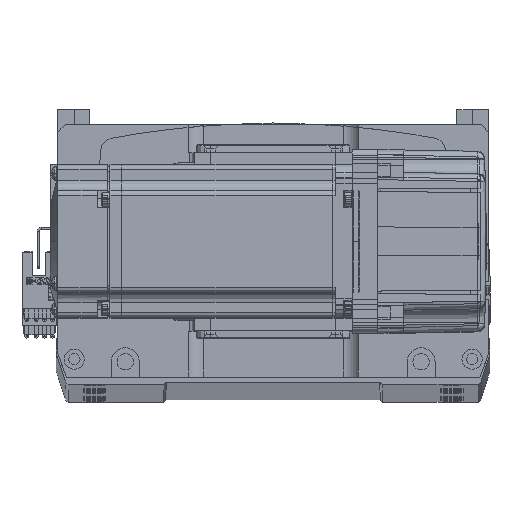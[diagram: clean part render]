
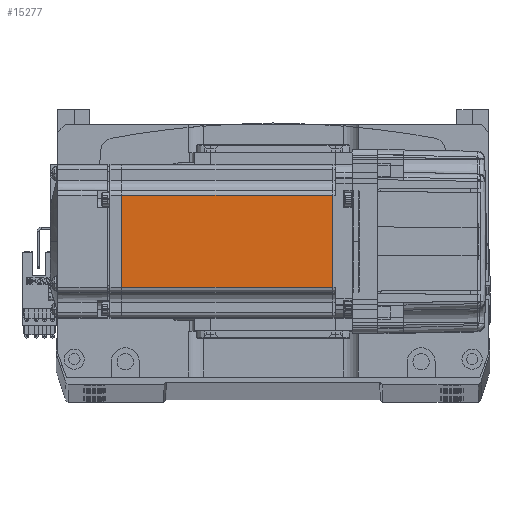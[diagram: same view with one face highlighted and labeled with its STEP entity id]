
A CAD part, top view. The second image highlights one B-rep face of the part: STEP entity #15277.
In plain terms, the highlighted planar face has unit normal (0, 0, 1).
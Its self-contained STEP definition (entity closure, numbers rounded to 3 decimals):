
#1954 = LINE ( 'NONE', #64064, #31824 ) ;
#6425 = CARTESIAN_POINT ( 'NONE',  ( -90.45, 0., 30. ) ) ;
#10285 = DIRECTION ( 'NONE',  ( 0., -1., 0. ) ) ;
#14148 = ORIENTED_EDGE ( 'NONE', *, *, #38905, .F. ) ;
#15277 = ADVANCED_FACE ( 'NONE', ( #44679 ), #48210, .T. ) ;
#19318 = CARTESIAN_POINT ( 'NONE',  ( -7.75, 18., 30. ) ) ;
#22535 = ORIENTED_EDGE ( 'NONE', *, *, #38074, .T. ) ;
#23377 = EDGE_CURVE ( 'NONE', #61444, #41903, #45281, .T. ) ;
#23616 = CARTESIAN_POINT ( 'NONE',  ( -90.45, 18., 30. ) ) ;
#25360 = AXIS2_PLACEMENT_3D ( 'NONE', #36112, #25728, #47720 ) ;
#25728 = DIRECTION ( 'NONE',  ( 0., 0., 1. ) ) ;
#28246 = CARTESIAN_POINT ( 'NONE',  ( -90.45, -18., 30. ) ) ;
#29912 = VECTOR ( 'NONE', #32023, 1000. ) ;
#31824 = VECTOR ( 'NONE', #47177, 1000. ) ;
#32023 = DIRECTION ( 'NONE',  ( -1., 0., 0. ) ) ;
#33588 = CARTESIAN_POINT ( 'NONE',  ( -7.75, 0., 30. ) ) ;
#34198 = LINE ( 'NONE', #6425, #56740 ) ;
#36112 = CARTESIAN_POINT ( 'NONE',  ( -6.5, -25., 30. ) ) ;
#38074 = EDGE_CURVE ( 'NONE', #41903, #62533, #34198, .T. ) ;
#38905 = EDGE_CURVE ( 'NONE', #61444, #46221, #45940, .T. ) ;
#40486 = CARTESIAN_POINT ( 'NONE',  ( -7.75, -18., 30. ) ) ;
#41112 = ORIENTED_EDGE ( 'NONE', *, *, #23377, .T. ) ;
#41903 = VERTEX_POINT ( 'NONE', #23616 ) ;
#43620 = CARTESIAN_POINT ( 'NONE',  ( -6.5, 18., 30. ) ) ;
#44302 = EDGE_CURVE ( 'NONE', #46221, #62533, #1954, .T. ) ;
#44679 = FACE_OUTER_BOUND ( 'NONE', #56349, .T. ) ;
#45281 = LINE ( 'NONE', #43620, #29912 ) ;
#45940 = LINE ( 'NONE', #33588, #63934 ) ;
#46221 = VERTEX_POINT ( 'NONE', #40486 ) ;
#47177 = DIRECTION ( 'NONE',  ( -1., 0., 0. ) ) ;
#47720 = DIRECTION ( 'NONE',  ( 1., 0., 0. ) ) ;
#48210 = PLANE ( 'NONE',  #25360 ) ;
#56349 = EDGE_LOOP ( 'NONE', ( #14148, #41112, #22535, #65120 ) ) ;
#56740 = VECTOR ( 'NONE', #58954, 1000. ) ;
#58954 = DIRECTION ( 'NONE',  ( 0., -1., 0. ) ) ;
#61444 = VERTEX_POINT ( 'NONE', #19318 ) ;
#62533 = VERTEX_POINT ( 'NONE', #28246 ) ;
#63934 = VECTOR ( 'NONE', #10285, 1000. ) ;
#64064 = CARTESIAN_POINT ( 'NONE',  ( -6.5, -18., 30. ) ) ;
#65120 = ORIENTED_EDGE ( 'NONE', *, *, #44302, .F. ) ;
